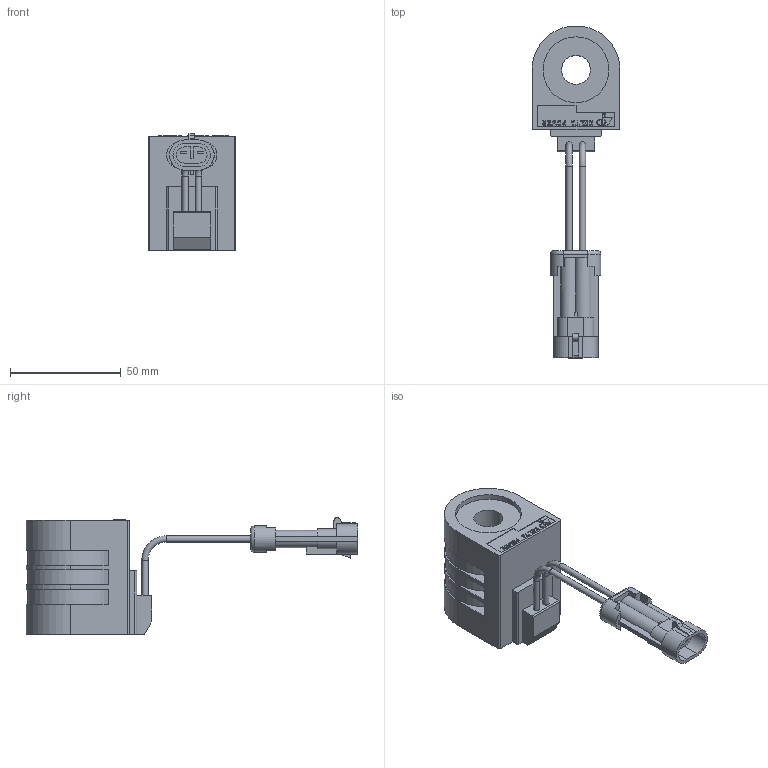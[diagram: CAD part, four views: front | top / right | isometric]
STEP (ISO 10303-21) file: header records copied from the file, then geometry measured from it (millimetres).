
FILE_DESCRIPTION((''),'2;1');
FILE_NAME('U:\Solid model CD\Solid model full\Coils\STEP\DML.stp','2009-01-16T15:06:47',('Dan'),(''),'Autodesk Inventor 2009','Autodesk Inventor 2009','');
FILE_SCHEMA(('AUTOMOTIVE_DESIGN { 1 0 10303 214 1 1 1 1 }'));
Length unit declared in the file: inch
Products named in the file (1): DML
Bounding box: 39.62 x 149.59 x 52.69 mm (x, y, z)
Volume: 83771.6 mm3; surface area: 21759 mm2
Topology: 13 solids, 13 shells, 341 faces, 902 edges, 597 vertices
Faces by surface type: plane 260, cylinder 66, bspline 11, torus 4
Full cylindrical faces by diameter (mm): 2.794 x4, 13.005 x1, 29.694 x2
Entity records: 10530 total; most frequent: CARTESIAN_POINT 1891, ORIENTED_EDGE 1784, DIRECTION 1712, EDGE_CURVE 892, VECTOR 734, LINE 734, VERTEX_POINT 596, AXIS2_PLACEMENT_3D 489
